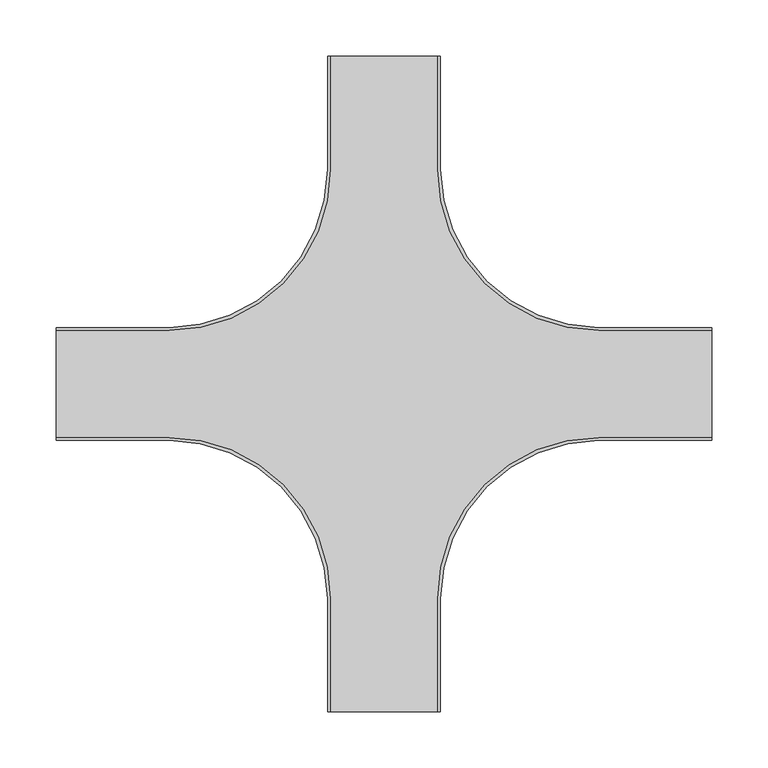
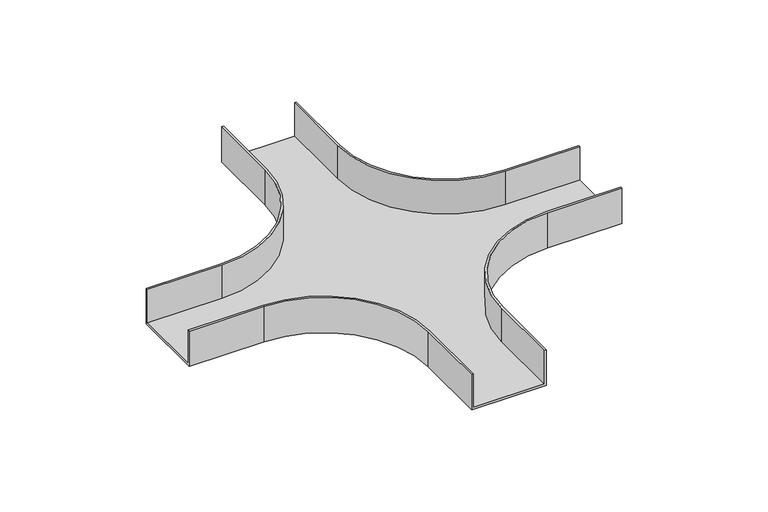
"""IFC4 building model written with IfcOpenShell, lengths in millimetres: cable carrier fitting geometry, BAKS_Cross-section_CZKZ : CZKZCH50."""

from ifc_helpers import new_model, si_unit, frame, origin, place, context, project, spatial, polyline, circle_curve, source, transform, mapped, element, save
from ifc_brep_helpers import plane_surface, cylinder_surface, revolved_surface, advanced_brep


def cable_carrier_fitting_4de17e9c(model_context):
    return source(origin(), model_context, "Body", "AdvancedBrep", [
        advanced_brep(
        [(-50.0, -190.0, 25.0), (-50.0, -290.0, 25.0), (-47.46, -290.0, 25.0), (-47.46, -190.0, 25.0), (-190.0, -47.46, 25.0), (-290.0, -47.46, 25.0), (-290.0, -50.0, 25.0), (-190.0, -50.0, 25.0), (50.0, -190.0, 25.0), (190.0, -50.0, 25.0), (290.0, -50.0, 25.0), (290.0, -47.46, 25.0), (190.0, -47.46, 25.0), (47.46, -190.0, 25.0), (47.46, -290.0, 25.0), (50.0, -290.0, 25.0), (-190.0, 50.0, 25.0), (-290.0, 50.0, 25.0), (-290.0, 47.46, 25.0), (-190.0, 47.46, 25.0), (-47.46, 190.0, 25.0), (-47.46, 290.0, 25.0), (-50.0, 290.0, 25.0), (-50.0, 190.0, 25.0), (47.46, 190.0, 25.0), (190.0, 47.46, 25.0), (290.0, 47.46, 25.0), (290.0, 50.0, 25.0), (190.0, 50.0, 25.0), (50.0, 190.0, 25.0), (50.0, 290.0, 25.0), (47.46, 290.0, 25.0), (-50.0, -190.0, -25.0), (-190.0, -50.0, -25.0), (-290.0, -50.0, -25.0), (-290.0, 50.0, -25.0), (-190.0, 50.0, -25.0), (-50.0, 190.0, -25.0), (-50.0, 290.0, -25.0), (50.0, 290.0, -25.0), (50.0, 190.0, -25.0), (190.0, 50.0, -25.0), (290.0, 50.0, -25.0), (290.0, -50.0, -25.0), (190.0, -50.0, -25.0), (50.0, -190.0, -25.0), (50.0, -290.0, -25.0), (-50.0, -290.0, -25.0), (-50.0, -190.0, -22.46), (47.46, -290.0, -22.46), (-47.46, -290.0, -22.46), (-47.46, -190.0, -22.46), (-190.0, -47.46, -22.46), (-290.0, -47.46, -22.46), (-290.0, 47.46, -22.46), (-190.0, -50.0, -22.46), (50.0, -190.0, -22.46), (190.0, -50.0, -22.46), (290.0, 47.46, -22.46), (290.0, -47.46, -22.46), (190.0, -47.46, -22.46), (47.46, -190.0, -22.46), (190.0, 47.46, -22.46), (47.46, 190.0, -22.46), (47.46, 290.0, -22.46), (-47.46, 290.0, -22.46), (-47.46, 190.0, -22.46), (-190.0, 47.46, -22.46), (-190.0, 50.0, -22.46), (-50.0, 190.0, -22.46), (190.0, 50.0, -22.46), (50.0, 190.0, -22.46)],
        [
            (0, 1),
            (1, 2),
            (2, 3),
            (3, 4, circle_curve(frame((-190.0, -190.0, 25.0), z_axis=(0.0, 0.0, 1.0), x_axis=(1.0, 0.0, 0.0)), 142.54)),
            (4, 5),
            (5, 6),
            (6, 7),
            (7, 0, circle_curve(frame((-190.0, -190.0, 25.0), z_axis=(0.0, 0.0, -1.0), x_axis=(1.0, 0.0, 0.0)), 140.0)),
            (8, 9, circle_curve(frame((190.0, -190.0, 25.0), z_axis=(0.0, 0.0, -1.0), x_axis=(1.0, 0.0, 0.0)), 140.0)),
            (9, 10),
            (10, 11),
            (11, 12),
            (12, 13, circle_curve(frame((190.0, -190.0, 25.0), z_axis=(0.0, 0.0, 1.0), x_axis=(1.0, 0.0, 0.0)), 142.54)),
            (13, 14),
            (14, 15),
            (15, 8),
            (16, 17),
            (17, 18),
            (18, 19),
            (19, 20, circle_curve(frame((-190.0, 190.0, 25.0), z_axis=(0.0, 0.0, 1.0), x_axis=(1.0, 0.0, 0.0)), 142.54)),
            (20, 21),
            (21, 22),
            (22, 23),
            (23, 16, circle_curve(frame((-190.0, 190.0, 25.0), z_axis=(0.0, 0.0, -1.0), x_axis=(1.0, 0.0, 0.0)), 140.0)),
            (24, 25, circle_curve(frame((190.0, 190.0, 25.0), z_axis=(0.0, 0.0, 1.0), x_axis=(1.0, 0.0, 0.0)), 142.54)),
            (25, 26),
            (26, 27),
            (27, 28),
            (28, 29, circle_curve(frame((190.0, 190.0, 25.0), z_axis=(0.0, 0.0, -1.0), x_axis=(1.0, 0.0, 0.0)), 140.0)),
            (29, 30),
            (30, 31),
            (31, 24),
            (32, 33, circle_curve(frame((-190.0, -190.0, -25.0), z_axis=(0.0, 0.0, 1.0), x_axis=(1.0, 0.0, 0.0)), 140.0)),
            (33, 34),
            (34, 35),
            (35, 36),
            (36, 37, circle_curve(frame((-190.0, 190.0, -25.0), z_axis=(0.0, 0.0, 1.0), x_axis=(1.0, 0.0, 0.0)), 140.0)),
            (37, 38),
            (38, 39),
            (39, 40),
            (40, 41, circle_curve(frame((190.0, 190.0, -25.0), z_axis=(0.0, 0.0, 1.0), x_axis=(1.0, 0.0, 0.0)), 140.0)),
            (41, 42),
            (42, 43),
            (43, 44),
            (44, 45, circle_curve(frame((190.0, -190.0, -25.0), z_axis=(0.0, 0.0, 1.0), x_axis=(1.0, 0.0, 0.0)), 140.0)),
            (45, 46),
            (46, 47),
            (47, 32),
            (47, 1),
            (0, 48),
            (48, 32),
            (46, 15),
            (14, 49),
            (49, 50),
            (50, 2),
            (50, 51),
            (51, 3),
            (51, 52, circle_curve(frame((-190.0, -190.0, -22.46), z_axis=(0.0, 0.0, 1.0), x_axis=(1.0, 0.0, 0.0)), 142.54)),
            (52, 4),
            (52, 53),
            (53, 5),
            (53, 54),
            (54, 18),
            (17, 35),
            (34, 6),
            (33, 55),
            (55, 7),
            (8, 56),
            (56, 45),
            (44, 57),
            (57, 9),
            (43, 10),
            (42, 27),
            (26, 58),
            (58, 59),
            (59, 11),
            (59, 60),
            (60, 12),
            (60, 61, circle_curve(frame((190.0, -190.0, -22.46), z_axis=(0.0, 0.0, 1.0), x_axis=(1.0, 0.0, 0.0)), 142.54)),
            (61, 13),
            (61, 49),
            (58, 62),
            (62, 63, circle_curve(frame((190.0, 190.0, -22.46), z_axis=(0.0, 0.0, -1.0), x_axis=(1.0, 0.0, 0.0)), 142.54)),
            (63, 64),
            (64, 65),
            (65, 66),
            (66, 67, circle_curve(frame((-190.0, 190.0, -22.46), z_axis=(0.0, 0.0, -1.0), x_axis=(1.0, 0.0, 0.0)), 142.54)),
            (67, 54),
            (16, 68),
            (68, 36),
            (67, 19),
            (66, 20),
            (65, 21),
            (64, 31),
            (30, 39),
            (38, 22),
            (37, 69),
            (69, 23),
            (24, 63),
            (62, 25),
            (41, 70),
            (70, 28),
            (40, 71),
            (71, 29),
        ],
        [
            plane_surface(frame((-50.0, -190.0, 25.0), z_axis=(0.0, 0.0, 1.0), x_axis=(0.0, -1.0, 0.0))),
            plane_surface(frame((-50.0, -190.0, -25.0), z_axis=(0.0, 0.0, -1.0), x_axis=(0.0, 1.0, 0.0))),
            plane_surface(frame((-50.0, -190.0, 25.0), z_axis=(-1.0, 0.0, 0.0), x_axis=(0.0, 0.0, -1.0))),
            plane_surface(frame((-50.0, -290.0, 25.0), z_axis=(0.0, -1.0, 0.0), x_axis=(0.0, 0.0, -1.0))),
            plane_surface(frame((-47.46, -290.0, 25.0), z_axis=(1.0, 0.0, 0.0), x_axis=(0.0, 0.0, -1.0))),
            cylinder_surface(frame((-190.0, -190.0, -25.0), z_axis=(0.0, 0.0, 1.0), x_axis=(1.0, 0.0, 0.0)), 142.54),
            plane_surface(frame((-190.0, -47.46, 25.0), z_axis=(0.0, 1.0, 0.0), x_axis=(0.0, 0.0, -1.0))),
            plane_surface(frame((-290.0, -47.46, 25.0), z_axis=(-1.0, 0.0, 0.0), x_axis=(0.0, 0.0, -1.0))),
            plane_surface(frame((-290.0, -50.0, 25.0), z_axis=(0.0, -1.0, 0.0), x_axis=(0.0, 0.0, -1.0))),
            revolved_surface(polyline([(-50.0, -190.0, -25.0), (-50.0, -190.0, 25.0)]), (-190.0, -190.0, -25.0), (0.0, 0.0, -1.0)),
            revolved_surface(polyline([(330.0, -190.0, -25.0), (330.0, -190.0, 25.0)]), (190.0, -190.0, 0.0), (0.0, 0.0, -1.0)),
            plane_surface(frame((190.0, -50.0, 25.0), z_axis=(0.0, -1.0, 0.0), x_axis=(0.0, 0.0, -1.0))),
            plane_surface(frame((290.0, -50.0, 25.0), z_axis=(1.0, 0.0, 0.0), x_axis=(0.0, 0.0, -1.0))),
            plane_surface(frame((290.0, -47.46, 25.0), z_axis=(0.0, 1.0, 0.0), x_axis=(0.0, 0.0, -1.0))),
            cylinder_surface(frame((190.0, -190.0, 0.0), z_axis=(0.0, 0.0, 1.0), x_axis=(1.0, 0.0, 0.0)), 142.54),
            plane_surface(frame((47.46, -190.0, 25.0), z_axis=(-1.0, 0.0, 0.0), x_axis=(0.0, 0.0, -1.0))),
            plane_surface(frame((50.0, -290.0, 25.0), z_axis=(1.0, 0.0, 0.0), x_axis=(0.0, 0.0, -1.0))),
            plane_surface(frame((-50.0, -190.0, -22.46), z_axis=(0.0, 0.0, 1.0), x_axis=(0.0, -1.0, 0.0))),
            plane_surface(frame((-190.0, 50.0, 25.0), z_axis=(0.0, 1.0, 0.0), x_axis=(0.0, 0.0, -1.0))),
            plane_surface(frame((-290.0, 47.46, 25.0), z_axis=(0.0, -1.0, 0.0), x_axis=(0.0, 0.0, -1.0))),
            cylinder_surface(frame((-190.0, 190.0, 0.0), z_axis=(0.0, 0.0, 1.0), x_axis=(1.0, 0.0, 0.0)), 142.54),
            plane_surface(frame((-47.46, 190.0, 25.0), z_axis=(1.0, 0.0, 0.0), x_axis=(0.0, 0.0, -1.0))),
            plane_surface(frame((-47.46, 290.0, 25.0), z_axis=(0.0, 1.0, 0.0), x_axis=(0.0, 0.0, -1.0))),
            plane_surface(frame((-50.0, 290.0, 25.0), z_axis=(-1.0, 0.0, 0.0), x_axis=(0.0, 0.0, -1.0))),
            revolved_surface(polyline([(-50.0, 190.0, -25.0), (-50.0, 190.0, 25.0)]), (-190.0, 190.0, 0.0), (0.0, 0.0, -1.0)),
            cylinder_surface(frame((190.0, 190.0, 0.0), z_axis=(0.0, 0.0, 1.0), x_axis=(1.0, 0.0, 0.0)), 142.54),
            plane_surface(frame((190.0, 47.46, 25.0), z_axis=(0.0, -1.0, 0.0), x_axis=(0.0, 0.0, -1.0))),
            plane_surface(frame((290.0, 50.0, 25.0), z_axis=(0.0, 1.0, 0.0), x_axis=(0.0, 0.0, -1.0))),
            revolved_surface(polyline([(330.0, 190.0, -25.0), (330.0, 190.0, 25.0)]), (190.0, 190.0, 0.0), (0.0, 0.0, -1.0)),
            plane_surface(frame((50.0, 190.0, 25.0), z_axis=(1.0, 0.0, 0.0), x_axis=(0.0, 0.0, -1.0))),
            plane_surface(frame((47.46, 290.0, 25.0), z_axis=(-1.0, 0.0, 0.0), x_axis=(0.0, 0.0, -1.0))),
        ],
        [
            (0, [[1, 2, 3, 4, 5, 6, 7, 8]]),
            (0, [[9, 10, 11, 12, 13, 14, 15, 16]]),
            (0, [[17, 18, 19, 20, 21, 22, 23, 24]]),
            (0, [[25, 26, 27, 28, 29, 30, 31, 32]]),
            (1, [[33, 34, 35, 36, 37, 38, 39, 40, 41, 42, 43, 44, 45, 46, 47, 48]]),
            (2, [[49, -1, 50, 51, -48]]),
            (3, [[-2, -49, -47, 52, -15, 53, 54, 55]]),
            (4, [[-3, -55, 56, 57]]),
            (5, [[-4, -57, 58, 59]]),
            (6, [[-5, -59, 60, 61]]),
            (7, [[-6, -61, 62, 63, -18, 64, -35, 65]]),
            (8, [[-7, -65, -34, 66, 67]]),
            (9, [[-8, -67, -66, -33, -51, -50]]),
            (10, [[-9, 68, 69, -45, 70, 71]]),
            (11, [[72, -10, -71, -70, -44]]),
            (12, [[-11, -72, -43, 73, -27, 74, 75, 76]]),
            (13, [[-12, -76, 77, 78]]),
            (14, [[-13, -78, 79, 80]]),
            (15, [[-14, -80, 81, -53]]),
            (16, [[-16, -52, -46, -69, -68]]),
            (17, [[-54, -81, -79, -77, -75, 82, 83, 84, 85, 86, 87, 88, -62, -60, -58, -56]]),
            (18, [[-64, -17, 89, 90, -36]]),
            (19, [[-19, -63, -88, 91]]),
            (20, [[-20, -91, -87, 92]]),
            (21, [[-21, -92, -86, 93]]),
            (22, [[-22, -93, -85, 94, -31, 95, -39, 96]]),
            (23, [[-23, -96, -38, 97, 98]]),
            (24, [[-24, -98, -97, -37, -90, -89]]),
            (25, [[-25, 99, -83, 100]]),
            (26, [[-26, -100, -82, -74]]),
            (27, [[-28, -73, -42, 101, 102]]),
            (28, [[-29, -102, -101, -41, 103, 104]]),
            (29, [[-95, -30, -104, -103, -40]]),
            (30, [[-32, -94, -84, -99]]),
        ],
    ),
    ])


if __name__ == "__main__":
    model = new_model("IFC4")
    model_context = context("Model", 3, world=origin())
    ifc_project = project(units=[si_unit("LENGTHUNIT", "METRE", prefix="MILLI")], contexts=[model_context])
    site = spatial("IfcSite", under=ifc_project)
    building = spatial("IfcBuilding", under=site)
    placement = place(None, origin())
    cable_carrier_fitting_shape = cable_carrier_fitting_4de17e9c(model_context)
    element("IfcCableCarrierFitting", 1, ObjectType="BAKS_Cross-section_CZKZ : CZKZCH50", at=placement, inside=building, context=model_context, shape_type="MappedRepresentation", body=[
        mapped(cable_carrier_fitting_shape, transform((0.0, 0.0, 0.0), x_axis=(1.0, 0.0, 0.0), y_axis=(0.0, 1.0, 0.0), z_axis=(0.0, 0.0, 1.0))),
    ])
    save(model, "model.ifc")
